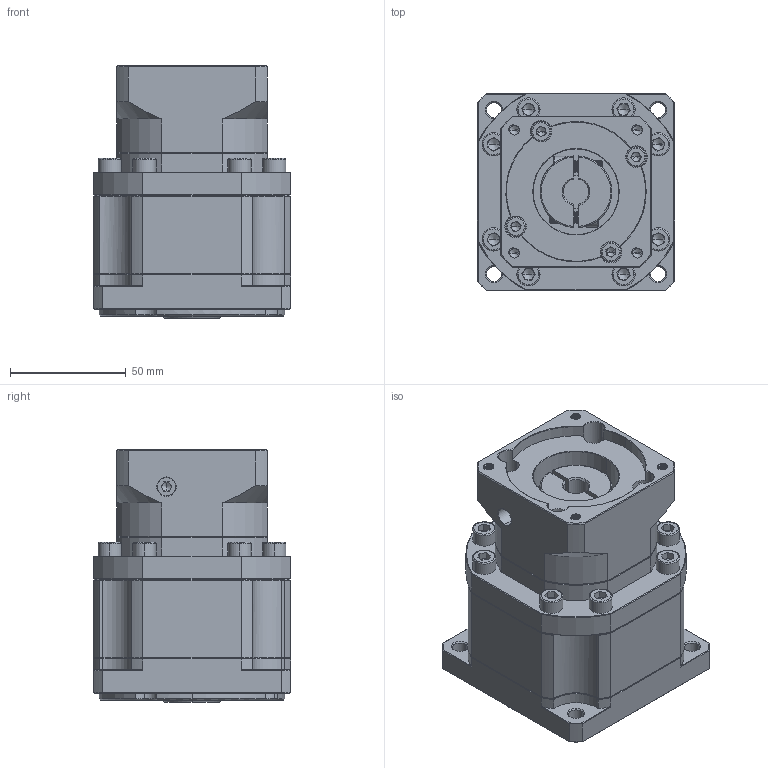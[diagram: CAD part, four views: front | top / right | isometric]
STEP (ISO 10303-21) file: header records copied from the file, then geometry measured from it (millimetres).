
FILE_DESCRIPTION (( 'STEP AP214' ), '1' );
FILE_NAME ('ZB090-K15-L2-P2-11-60-75-M5.step', '2023-08-18T13:39:56', ( '' ), ( '' ), 'SwSTEP 2.0', 'SolidWorks 2016', '' );
FILE_SCHEMA (( 'AUTOMOTIVE_DESIGN' ));
Length unit declared in the file: millimetre
Products named in the file (1): ZB090-K15-L2-P2-11-60-75-M5
Bounding box: 85 x 85 x 109 mm (x, y, z)
Volume: 521900.2 mm3; surface area: 75142.6 mm2
Topology: 6 solids, 6 shells, 2319 faces, 6183 edges, 3955 vertices
Faces by surface type: plane 1178, bspline 416, cylinder 382, cone 321, torus 22
Entity records: 120229 total; most frequent: CARTESIAN_POINT 40110, ORIENTED_EDGE 12278, DIRECTION 9845, EDGE_CURVE 6139, VERTEX_POINT 3955, VECTOR 3909, LINE 3909, AXIS2_PLACEMENT_3D 2968
